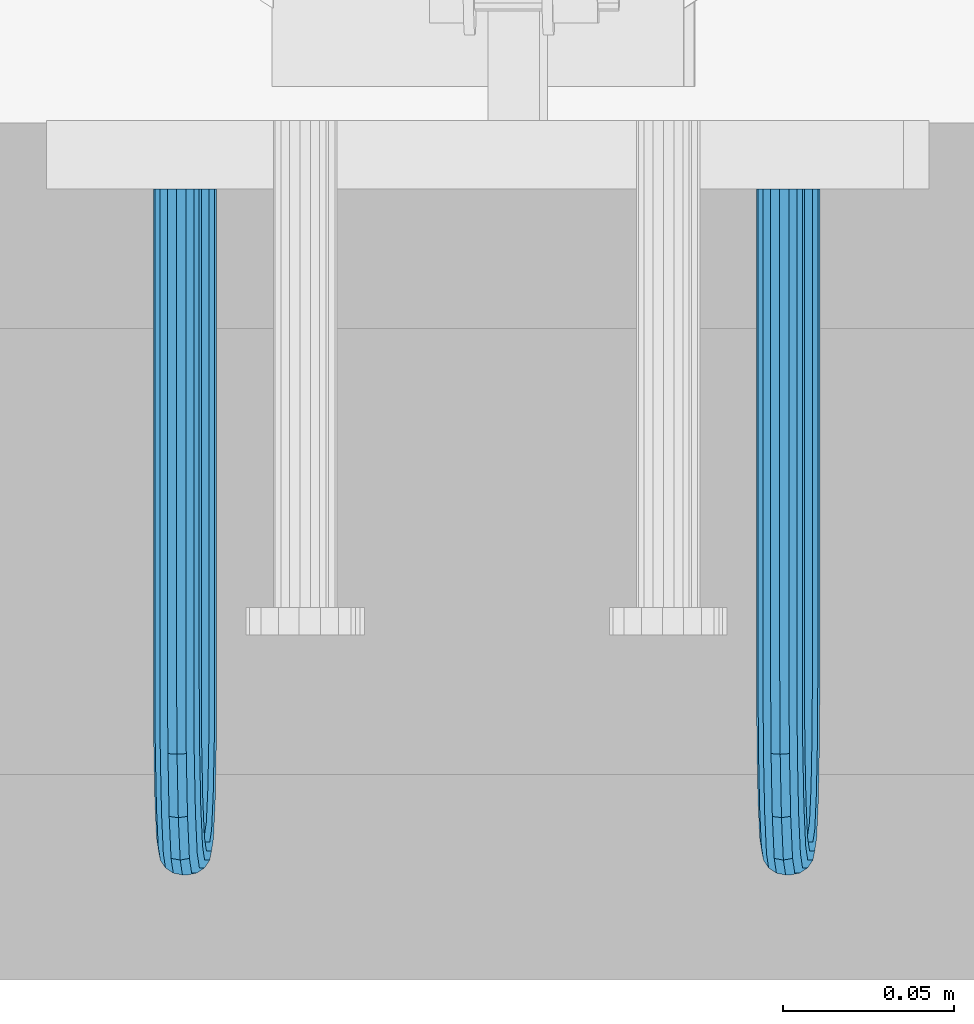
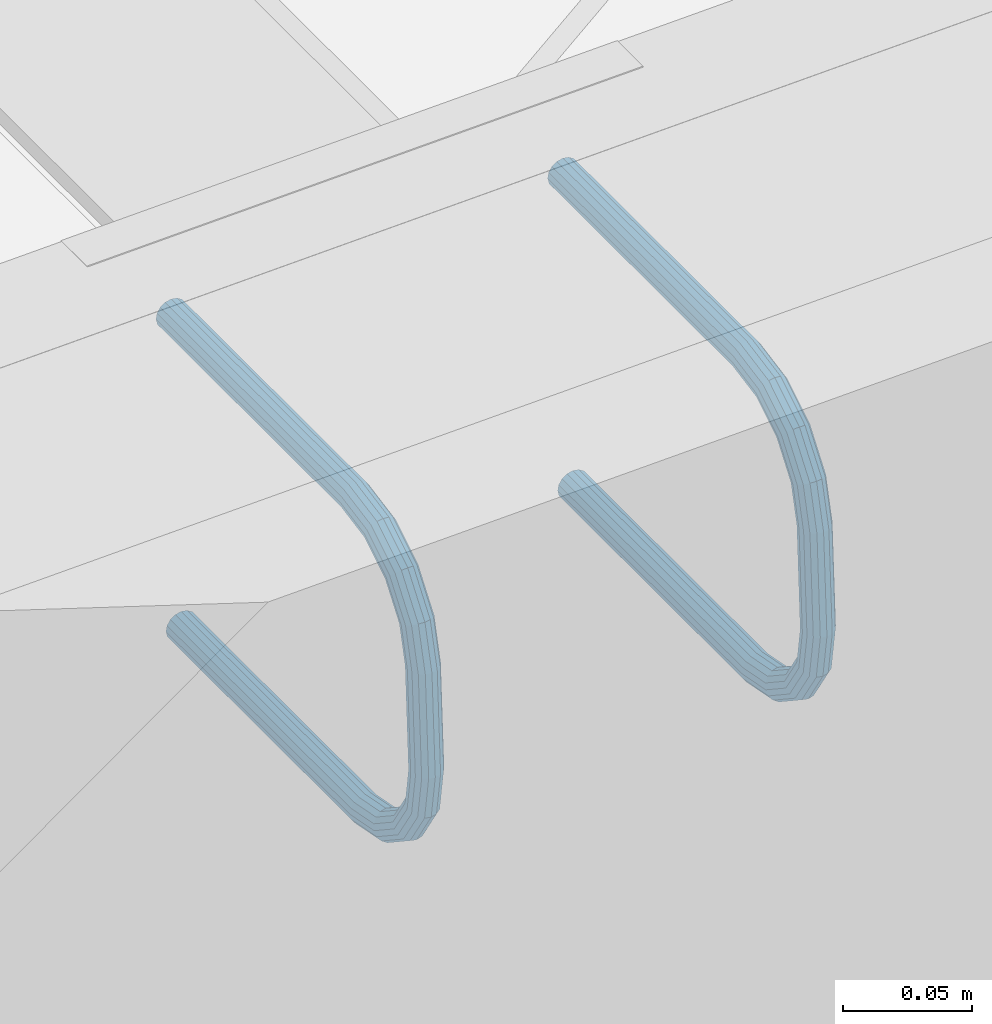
# One storey, part 79 of 476: 2 beams.
"""IFC2X3 building model written with IfcOpenShell, lengths in millimetres."""

from ifc_helpers import new_model, entity, si_unit, converted_unit, origin_with_axes, place, context, project, spatial, faceted_brep, material, element, save


model = new_model("IFC2X3")

# Units and contexts
model_context = context("Model", 3, precision=1e-09, world=origin_with_axes())
ifc_project = project(units=[si_unit("LENGTHUNIT", "METRE", prefix="MILLI"), si_unit("AREAUNIT", "SQUARE_METRE"), si_unit("VOLUMEUNIT", "CUBIC_METRE"), converted_unit("PLANEANGLEUNIT", "DEGREE", entity("IfcPlaneAngleMeasure", 0.01745329), si_unit("PLANEANGLEUNIT", "RADIAN"), dimensions=[0, 0, 0, 0, 0, 0, 0])], contexts=[model_context])

# Site, building, storey
site_placement = place(None, origin_with_axes())
site = spatial("IfcSite", under=ifc_project, at=site_placement, Name="mKR Teilneubau & Sanierung BA1 - Ostfildern", CompositionType="ELEMENT")
building_placement = place(site_placement, origin_with_axes())
building = spatial("IfcBuilding", under=site, at=building_placement, Name="Struktur 1", CompositionType="ELEMENT")
storey_placement = place(building_placement, origin_with_axes())
storey = spatial("IfcBuildingStorey", under=building, at=storey_placement, Name="Default Storey", CompositionType="ELEMENT", Elevation=0.0)

# Beams
ifc_material = material(Name="S235JR")
beam_1_placement = place(None, origin_with_axes())
element("IfcBeam", 1, at=beam_1_placement, inside=storey, material=ifc_material, Name="-", ObjectType="-", context=model_context, shape_type="Brep", body=[
    faceted_brep([(11701.629434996, -23549.67387897, 5198.397445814), (11703.853787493, -23549.67387897, 5199.982394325), (11706.515354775, -23549.67387897, 5200.595472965), (11709.208937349, -23549.67387897, 5200.14334607), (11711.524461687, -23549.67387897, 5198.694845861), (11713.109410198, -23549.67387897, 5196.470493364), (11713.722488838, -23549.67387897, 5193.808926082), (11713.270361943, -23549.67387897, 5191.115343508), (11711.821861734, -23549.67387897, 5188.799819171), (11709.597509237, -23549.67387897, 5187.21487066), (11706.935941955, -23549.67387897, 5186.601792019), (11704.242359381, -23549.67387897, 5187.053918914), (11701.926835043, -23549.67387897, 5188.502419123), (11700.341886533, -23549.67387897, 5190.72677162), (11699.728807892, -23549.67387897, 5193.388338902), (11700.180934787, -23549.67387897, 5196.081921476), (11699.736068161, -23549.67387897, 5336.986214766), (11697.420543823, -23549.67387897, 5338.434714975), (11695.835595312, -23549.67387897, 5340.659067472), (11695.222516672, -23549.67387897, 5343.320634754), (11695.674643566, -23549.67387897, 5346.014217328), (11697.123143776, -23549.67387897, 5348.329741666), (11699.347496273, -23549.67387897, 5349.914690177), (11702.009063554, -23549.67387897, 5350.527768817), (11704.702646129, -23549.67387897, 5350.075641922), (11707.018170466, -23549.67387897, 5348.627141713), (11708.603118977, -23549.67387897, 5346.402789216), (11709.216197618, -23549.67387897, 5343.741221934), (11708.764070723, -23549.67387897, 5341.04763936), (11707.315570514, -23549.67387897, 5338.732115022), (11705.091218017, -23549.67387897, 5337.147166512), (11702.429650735, -23549.67387897, 5336.534087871), (11701.629434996, -23692.67387897, 5198.397445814), (11703.853787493, -23692.67387897, 5199.982394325), (11700.180934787, -23692.67387897, 5196.081921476), (11699.728807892, -23692.67387897, 5193.388338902), (11700.341886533, -23692.67387897, 5190.72677162), (11701.926835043, -23692.67387897, 5188.502419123), (11704.242359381, -23692.67387897, 5187.053918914), (11706.935941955, -23692.67387897, 5186.601792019), (11709.597509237, -23692.67387897, 5187.21487066), (11711.821861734, -23692.67387897, 5188.799819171), (11713.270361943, -23692.67387897, 5191.115343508), (11713.722488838, -23692.67387897, 5193.808926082), (11713.109410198, -23692.67387897, 5196.470493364), (11711.524461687, -23692.67387897, 5198.694845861), (11709.208937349, -23692.67387897, 5200.14334607), (11706.515354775, -23692.67387897, 5200.595472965), (11701.52641378, -23709.913864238, 5201.825144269), (11703.754236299, -23709.333176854, 5203.294639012), (11700.072720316, -23710.782924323, 5199.682408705), (11699.614467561, -23711.808050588, 5197.192644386), (11700.22142034, -23712.833176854, 5194.73489536), (11701.801175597, -23713.702236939, 5192.683331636), (11704.113229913, -23714.282924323, 5191.350285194), (11706.805593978, -23714.486834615, 5190.938700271), (11709.468379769, -23714.282924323, 5191.51123694), (11711.696202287, -23713.702236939, 5192.980731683), (11713.149895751, -23712.833176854, 5195.123467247), (11713.608148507, -23711.808050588, 5197.613231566), (11713.001195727, -23710.782924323, 5200.070980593), (11711.421440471, -23709.913864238, 5202.122544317), (11709.109386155, -23709.333176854, 5203.455590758), (11706.41702209, -23709.129266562, 5203.867175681), (11701.233034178, -23724.52921803, 5211.586403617), (11703.470738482, -23723.456247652, 5212.727113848), (11699.764551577, -23726.135031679, 5209.935728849), (11699.288853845, -23728.02921803, 5208.026389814), (11699.878361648, -23729.92340438, 5206.149066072), (11701.443327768, -23731.52921803, 5204.589563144), (11703.745500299, -23732.602188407, 5203.585301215), (11706.434394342, -23732.978965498, 5203.289170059), (11709.100650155, -23732.602188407, 5203.746252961), (11711.338354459, -23731.52921803, 5204.886963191), (11712.806837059, -23729.92340438, 5206.537637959), (11713.282534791, -23728.02921803, 5208.446976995), (11712.693026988, -23726.135031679, 5210.324300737), (11711.128060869, -23724.52921803, 5211.883803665), (11708.825888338, -23723.456247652, 5212.888065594), (11706.136994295, -23723.079470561, 5213.18419675), (11700.793960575, -23734.294885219, 5226.195160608), (11703.046454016, -23732.892981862, 5226.843810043), (11699.303344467, -23736.392981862, 5225.280906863), (11698.801538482, -23738.867855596, 5224.240235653), (11699.364938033, -23741.34272933, 5223.231579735), (11700.907770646, -23743.440825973, 5222.408497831), (11703.195154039, -23744.84272933, 5221.896296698), (11705.878854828, -23745.335012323, 5221.772954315), (11708.550303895, -23744.84272933, 5222.057248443), (11710.802797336, -23743.440825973, 5222.705897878), (11712.293413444, -23741.34272933, 5223.620151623), (11712.795219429, -23738.867855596, 5224.660822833), (11712.231819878, -23736.392981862, 5225.669478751), (11710.688987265, -23734.294885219, 5226.492560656), (11708.401603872, -23732.892981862, 5227.004761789), (11705.717903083, -23732.400698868, 5227.128104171), (11700.276037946, -23737.724131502, 5243.427364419), (11702.545976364, -23736.206722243, 5243.49558857), (11698.759313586, -23739.995094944, 5243.381778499), (11698.226710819, -23742.67387897, 5243.365770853), (11698.759313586, -23745.352662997, 5243.381778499), (11700.276037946, -23747.623626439, 5243.427364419), (11702.545976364, -23749.141035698, 5243.49558857), (11705.223551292, -23749.67387897, 5243.576064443), (11707.90112622, -23749.141035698, 5243.656540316), (11710.171064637, -23747.623626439, 5243.724764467), (11711.687788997, -23745.352662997, 5243.770350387), (11712.220391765, -23742.67387897, 5243.786358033), (11711.687788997, -23739.995094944, 5243.770350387), (11710.171064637, -23737.724131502, 5243.724764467), (11707.90112622, -23736.206722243, 5243.656540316), (11705.223551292, -23735.67387897, 5243.576064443), (11698.773940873, -23737.724131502, 5293.40479637), (11701.04387929, -23736.206722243, 5293.473020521), (11697.257216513, -23739.995094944, 5293.35921045), (11696.724613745, -23742.67387897, 5293.343202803), (11697.257216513, -23745.352662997, 5293.35921045), (11698.773940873, -23747.623626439, 5293.40479637), (11701.04387929, -23749.141035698, 5293.473020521), (11703.721454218, -23749.67387897, 5293.553496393), (11706.399029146, -23749.141035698, 5293.633972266), (11708.668967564, -23747.623626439, 5293.702196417), (11710.185691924, -23745.352662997, 5293.747782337), (11710.718294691, -23742.67387897, 5293.763789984), (11710.185691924, -23739.995094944, 5293.747782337), (11708.668967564, -23737.724131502, 5293.702196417), (11706.399029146, -23736.206722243, 5293.633972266), (11703.721454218, -23735.67387897, 5293.553496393), (11698.256018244, -23734.294885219, 5310.637000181), (11700.543401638, -23732.892981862, 5310.124799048), (11696.713185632, -23736.392981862, 5311.460082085), (11696.149786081, -23738.867855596, 5312.468738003), (11696.651592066, -23741.34272933, 5313.509409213), (11698.142208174, -23743.440825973, 5314.423662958), (11700.394701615, -23744.84272933, 5315.072312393), (11703.066150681, -23745.335012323, 5315.356606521), (11705.74985147, -23744.84272933, 5315.233264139), (11708.037234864, -23743.440825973, 5314.721063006), (11709.580067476, -23741.34272933, 5313.897981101), (11710.143467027, -23738.867855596, 5312.889325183), (11709.641661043, -23736.392981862, 5311.848653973), (11708.151044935, -23734.294885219, 5310.934400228), (11705.898551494, -23732.892981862, 5310.285750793), (11703.227102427, -23732.400698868, 5310.001456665), (11697.816944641, -23724.52921803, 5325.245757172), (11700.119117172, -23723.456247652, 5324.241495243), (11696.251978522, -23726.135031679, 5326.8052601), (11695.662470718, -23728.02921803, 5328.682583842), (11696.138168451, -23729.92340438, 5330.591922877), (11697.606651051, -23731.52921803, 5332.242597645), (11699.844355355, -23732.602188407, 5333.383307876), (11702.510611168, -23732.978965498, 5333.840390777), (11705.199505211, -23732.602188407, 5333.544259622), (11707.501677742, -23731.52921803, 5332.539997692), (11709.066643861, -23729.92340438, 5330.980494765), (11709.656151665, -23728.02921803, 5329.103171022), (11709.180453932, -23726.135031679, 5327.193831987), (11707.711971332, -23724.52921803, 5325.543157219), (11705.474267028, -23723.456247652, 5324.402446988), (11702.808011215, -23723.079470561, 5323.945364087), (11697.523565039, -23709.913864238, 5335.00701652), (11699.835619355, -23709.333176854, 5333.673970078), (11695.943809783, -23710.782924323, 5337.058580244), (11695.336857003, -23711.808050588, 5339.51632927), (11695.795109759, -23712.833176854, 5342.006093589), (11697.248803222, -23713.702236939, 5344.148829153), (11699.476625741, -23714.282924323, 5345.618323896), (11702.139411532, -23714.486834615, 5346.190860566), (11704.831775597, -23714.282924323, 5345.779275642), (11707.143829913, -23713.702236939, 5344.446229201), (11708.72358517, -23712.833176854, 5342.394665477), (11709.330537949, -23711.808050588, 5339.93691645), (11708.872285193, -23710.782924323, 5337.447152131), (11707.41859173, -23709.913864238, 5335.304416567), (11705.190769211, -23709.333176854, 5333.834921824), (11702.52798342, -23709.129266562, 5333.262385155), (11697.420543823, -23692.67387897, 5338.434714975), (11699.736068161, -23692.67387897, 5336.986214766), (11695.835595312, -23692.67387897, 5340.659067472), (11695.222516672, -23692.67387897, 5343.320634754), (11695.674643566, -23692.67387897, 5346.014217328), (11697.123143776, -23692.67387897, 5348.329741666), (11699.347496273, -23692.67387897, 5349.914690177), (11702.009063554, -23692.67387897, 5350.527768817), (11704.702646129, -23692.67387897, 5350.075641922), (11707.018170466, -23692.67387897, 5348.627141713), (11708.603118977, -23692.67387897, 5346.402789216), (11709.216197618, -23692.67387897, 5343.741221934), (11708.764070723, -23692.67387897, 5341.04763936), (11707.315570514, -23692.67387897, 5338.732115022), (11705.091218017, -23692.67387897, 5337.147166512), (11702.429650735, -23692.67387897, 5336.534087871)], [[[0, 1, 2, 3, 4, 5, 6, 7, 8, 9, 10, 11, 12, 13, 14, 15]], [[16, 17, 18, 19, 20, 21, 22, 23, 24, 25, 26, 27, 28, 29, 30, 31]], [[1, 0, 32, 33]], [[0, 15, 34, 32]], [[15, 14, 35, 34]], [[14, 13, 36, 35]], [[13, 12, 37, 36]], [[12, 11, 38, 37]], [[11, 10, 39, 38]], [[10, 9, 40, 39]], [[9, 8, 41, 40]], [[8, 7, 42, 41]], [[7, 6, 43, 42]], [[6, 5, 44, 43]], [[5, 4, 45, 44]], [[4, 3, 46, 45]], [[3, 2, 47, 46]], [[2, 1, 33, 47]], [[33, 32, 48, 49]], [[32, 34, 50, 48]], [[34, 35, 51, 50]], [[35, 36, 52, 51]], [[36, 37, 53, 52]], [[37, 38, 54, 53]], [[38, 39, 55, 54]], [[39, 40, 56, 55]], [[40, 41, 57, 56]], [[41, 42, 58, 57]], [[42, 43, 59, 58]], [[43, 44, 60, 59]], [[44, 45, 61, 60]], [[45, 46, 62, 61]], [[46, 47, 63, 62]], [[47, 33, 49, 63]], [[49, 48, 64, 65]], [[48, 50, 66, 64]], [[50, 51, 67, 66]], [[51, 52, 68, 67]], [[52, 53, 69, 68]], [[53, 54, 70, 69]], [[54, 55, 71, 70]], [[55, 56, 72, 71]], [[56, 57, 73, 72]], [[57, 58, 74, 73]], [[58, 59, 75, 74]], [[59, 60, 76, 75]], [[60, 61, 77, 76]], [[61, 62, 78, 77]], [[62, 63, 79, 78]], [[63, 49, 65, 79]], [[65, 64, 80, 81]], [[64, 66, 82, 80]], [[66, 67, 83, 82]], [[67, 68, 84, 83]], [[68, 69, 85, 84]], [[69, 70, 86, 85]], [[70, 71, 87, 86]], [[71, 72, 88, 87]], [[72, 73, 89, 88]], [[73, 74, 90, 89]], [[74, 75, 91, 90]], [[75, 76, 92, 91]], [[76, 77, 93, 92]], [[77, 78, 94, 93]], [[78, 79, 95, 94]], [[79, 65, 81, 95]], [[81, 80, 96, 97]], [[80, 82, 98, 96]], [[82, 83, 99, 98]], [[83, 84, 100, 99]], [[84, 85, 101, 100]], [[85, 86, 102, 101]], [[86, 87, 103, 102]], [[87, 88, 104, 103]], [[88, 89, 105, 104]], [[89, 90, 106, 105]], [[90, 91, 107, 106]], [[91, 92, 108, 107]], [[92, 93, 109, 108]], [[93, 94, 110, 109]], [[94, 95, 111, 110]], [[95, 81, 97, 111]], [[97, 96, 112, 113]], [[96, 98, 114, 112]], [[98, 99, 115, 114]], [[99, 100, 116, 115]], [[100, 101, 117, 116]], [[101, 102, 118, 117]], [[102, 103, 119, 118]], [[103, 104, 120, 119]], [[104, 105, 121, 120]], [[105, 106, 122, 121]], [[106, 107, 123, 122]], [[107, 108, 124, 123]], [[108, 109, 125, 124]], [[109, 110, 126, 125]], [[110, 111, 127, 126]], [[111, 97, 113, 127]], [[113, 112, 128, 129]], [[112, 114, 130, 128]], [[114, 115, 131, 130]], [[115, 116, 132, 131]], [[116, 117, 133, 132]], [[117, 118, 134, 133]], [[118, 119, 135, 134]], [[119, 120, 136, 135]], [[120, 121, 137, 136]], [[121, 122, 138, 137]], [[122, 123, 139, 138]], [[123, 124, 140, 139]], [[124, 125, 141, 140]], [[125, 126, 142, 141]], [[126, 127, 143, 142]], [[127, 113, 129, 143]], [[129, 128, 144, 145]], [[128, 130, 146, 144]], [[130, 131, 147, 146]], [[131, 132, 148, 147]], [[132, 133, 149, 148]], [[133, 134, 150, 149]], [[134, 135, 151, 150]], [[135, 136, 152, 151]], [[136, 137, 153, 152]], [[137, 138, 154, 153]], [[138, 139, 155, 154]], [[139, 140, 156, 155]], [[140, 141, 157, 156]], [[141, 142, 158, 157]], [[142, 143, 159, 158]], [[143, 129, 145, 159]], [[145, 144, 160, 161]], [[144, 146, 162, 160]], [[146, 147, 163, 162]], [[147, 148, 164, 163]], [[148, 149, 165, 164]], [[149, 150, 166, 165]], [[150, 151, 167, 166]], [[151, 152, 168, 167]], [[152, 153, 169, 168]], [[153, 154, 170, 169]], [[154, 155, 171, 170]], [[155, 156, 172, 171]], [[156, 157, 173, 172]], [[157, 158, 174, 173]], [[158, 159, 175, 174]], [[159, 145, 161, 175]], [[161, 160, 176, 177]], [[160, 162, 178, 176]], [[162, 163, 179, 178]], [[163, 164, 180, 179]], [[164, 165, 181, 180]], [[165, 166, 182, 181]], [[166, 167, 183, 182]], [[167, 168, 184, 183]], [[168, 169, 185, 184]], [[169, 170, 186, 185]], [[170, 171, 187, 186]], [[171, 172, 188, 187]], [[172, 173, 189, 188]], [[173, 174, 190, 189]], [[174, 175, 191, 190]], [[175, 161, 177, 191]], [[177, 176, 17, 16]], [[176, 178, 18, 17]], [[178, 179, 19, 18]], [[179, 180, 20, 19]], [[180, 181, 21, 20]], [[181, 182, 22, 21]], [[182, 183, 23, 22]], [[183, 184, 24, 23]], [[184, 185, 25, 24]], [[185, 186, 26, 25]], [[186, 187, 27, 26]], [[187, 188, 28, 27]], [[188, 189, 29, 28]], [[189, 190, 30, 29]], [[190, 191, 31, 30]], [[191, 177, 16, 31]]]),
])
beam_2_placement = place(None, origin_with_axes())
element("IfcBeam", 2, at=beam_2_placement, inside=storey, material=ifc_material, Name="-", ObjectType="-", context=model_context, shape_type="Brep", body=[
    faceted_brep([(11525.70887453, -23549.67387897, 5193.110064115), (11527.933227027, -23549.67387897, 5194.695012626), (11530.594794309, -23549.67387897, 5195.308091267), (11533.288376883, -23549.67387897, 5194.855964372), (11535.60390122, -23549.67387897, 5193.407464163), (11537.188849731, -23549.67387897, 5191.183111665), (11537.801928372, -23549.67387897, 5188.521544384), (11537.349801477, -23549.67387897, 5185.82796181), (11535.901301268, -23549.67387897, 5183.512437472), (11533.676948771, -23549.67387897, 5181.927488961), (11531.015381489, -23549.67387897, 5181.314410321), (11528.321798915, -23549.67387897, 5181.766537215), (11526.006274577, -23549.67387897, 5183.215037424), (11524.421326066, -23549.67387897, 5185.439389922), (11523.808247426, -23549.67387897, 5188.100957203), (11524.260374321, -23549.67387897, 5190.794539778), (11523.815507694, -23549.67387897, 5331.698833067), (11521.499983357, -23549.67387897, 5333.147333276), (11519.915034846, -23549.67387897, 5335.371685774), (11519.301956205, -23549.67387897, 5338.033253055), (11519.7540831, -23549.67387897, 5340.72683563), (11521.202583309, -23549.67387897, 5343.042359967), (11523.426935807, -23549.67387897, 5344.627308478), (11526.088503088, -23549.67387897, 5345.240387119), (11528.782085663, -23549.67387897, 5344.788260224), (11531.09761, -23549.67387897, 5343.339760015), (11532.682558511, -23549.67387897, 5341.115407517), (11533.295637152, -23549.67387897, 5338.453840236), (11532.843510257, -23549.67387897, 5335.760257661), (11531.395010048, -23549.67387897, 5333.444733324), (11529.17065755, -23549.67387897, 5331.859784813), (11526.509090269, -23549.67387897, 5331.246706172), (11525.70887453, -23692.67387897, 5193.110064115), (11527.933227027, -23692.67387897, 5194.695012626), (11524.260374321, -23692.67387897, 5190.794539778), (11523.808247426, -23692.67387897, 5188.100957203), (11524.421326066, -23692.67387897, 5185.439389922), (11526.006274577, -23692.67387897, 5183.215037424), (11528.321798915, -23692.67387897, 5181.766537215), (11531.015381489, -23692.67387897, 5181.314410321), (11533.676948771, -23692.67387897, 5181.927488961), (11535.901301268, -23692.67387897, 5183.512437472), (11537.349801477, -23692.67387897, 5185.82796181), (11537.801928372, -23692.67387897, 5188.521544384), (11537.188849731, -23692.67387897, 5191.183111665), (11535.603901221, -23692.67387897, 5193.407464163), (11533.288376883, -23692.67387897, 5194.855964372), (11530.594794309, -23692.67387897, 5195.308091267), (11525.605853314, -23709.913864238, 5196.53776257), (11527.833675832, -23709.333176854, 5198.007257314), (11524.15215985, -23710.782924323, 5194.395027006), (11523.693907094, -23711.808050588, 5191.905262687), (11524.300859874, -23712.833176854, 5189.447513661), (11525.88061513, -23713.702236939, 5187.395949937), (11528.192669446, -23714.282924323, 5186.062903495), (11530.885033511, -23714.486834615, 5185.651318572), (11533.547819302, -23714.282924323, 5186.223855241), (11535.775641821, -23713.702236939, 5187.693349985), (11537.229335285, -23712.833176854, 5189.836085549), (11537.68758804, -23711.808050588, 5192.325849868), (11537.080635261, -23710.782924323, 5194.783598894), (11535.500880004, -23709.913864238, 5196.835162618), (11533.188825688, -23709.333176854, 5198.16820906), (11530.496461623, -23709.129266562, 5198.579793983), (11525.312473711, -23724.52921803, 5206.299021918), (11527.550178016, -23723.456247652, 5207.439732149), (11523.843991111, -23726.135031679, 5204.64834715), (11523.368293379, -23728.02921803, 5202.739008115), (11523.957801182, -23729.92340438, 5200.861684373), (11525.522767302, -23731.52921803, 5199.302181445), (11527.824939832, -23732.602188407, 5198.297919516), (11530.513833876, -23732.978965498, 5198.00178836), (11533.180089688, -23732.602188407, 5198.458871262), (11535.417793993, -23731.52921803, 5199.599581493), (11536.886276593, -23729.92340438, 5201.250256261), (11537.361974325, -23728.02921803, 5203.159595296), (11536.772466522, -23726.135031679, 5205.036919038), (11535.207500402, -23724.52921803, 5206.596421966), (11532.905327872, -23723.456247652, 5207.600683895), (11530.216433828, -23723.079470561, 5207.896815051), (11524.873400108, -23734.294885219, 5220.90777891), (11527.125893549, -23732.892981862, 5221.556428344), (11523.382784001, -23736.392981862, 5219.993525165), (11522.880978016, -23738.867855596, 5218.952853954), (11523.444377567, -23741.34272933, 5217.944198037), (11524.987210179, -23743.440825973, 5217.121116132), (11527.274593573, -23744.84272933, 5216.608914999), (11529.958294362, -23745.335012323, 5216.485572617), (11532.629743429, -23744.84272933, 5216.769866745), (11534.88223687, -23743.440825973, 5217.41851618), (11536.372852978, -23741.34272933, 5218.332769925), (11536.874658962, -23738.867855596, 5219.373441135), (11536.311259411, -23736.392981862, 5220.382097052), (11534.768426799, -23734.294885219, 5221.205178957), (11532.481043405, -23732.892981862, 5221.71738009), (11529.797342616, -23732.400698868, 5221.840722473), (11524.35547748, -23737.724131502, 5238.139982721), (11526.625415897, -23736.206722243, 5238.208206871), (11522.83875312, -23739.995094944, 5238.0943968), (11522.306150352, -23742.67387897, 5238.078389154), (11522.83875312, -23745.352662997, 5238.0943968), (11524.35547748, -23747.623626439, 5238.139982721), (11526.625415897, -23749.141035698, 5238.208206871), (11529.302990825, -23749.67387897, 5238.288682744), (11531.980565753, -23749.141035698, 5238.369158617), (11534.250504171, -23747.623626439, 5238.437382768), (11535.767228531, -23745.352662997, 5238.482968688), (11536.299831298, -23742.67387897, 5238.498976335), (11535.767228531, -23739.995094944, 5238.482968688), (11534.250504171, -23737.724131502, 5238.437382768), (11531.980565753, -23736.206722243, 5238.369158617), (11529.302990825, -23735.67387897, 5238.288682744), (11522.853380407, -23737.724131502, 5288.117414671), (11525.123318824, -23736.206722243, 5288.185638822), (11521.336656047, -23739.995094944, 5288.071828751), (11520.804053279, -23742.67387897, 5288.055821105), (11521.336656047, -23745.352662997, 5288.071828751), (11522.853380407, -23747.623626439, 5288.117414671), (11525.123318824, -23749.141035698, 5288.185638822), (11527.800893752, -23749.67387897, 5288.266114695), (11530.47846868, -23749.141035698, 5288.346590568), (11532.748407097, -23747.623626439, 5288.414814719), (11534.265131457, -23745.352662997, 5288.460400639), (11534.797734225, -23742.67387897, 5288.476408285), (11534.265131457, -23739.995094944, 5288.460400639), (11532.748407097, -23737.724131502, 5288.414814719), (11530.47846868, -23736.206722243, 5288.346590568), (11527.800893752, -23735.67387897, 5288.266114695), (11522.335457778, -23734.294885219, 5305.349618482), (11524.622841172, -23732.892981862, 5304.837417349), (11520.792625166, -23736.392981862, 5306.172700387), (11520.229225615, -23738.867855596, 5307.181356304), (11520.731031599, -23741.34272933, 5308.222027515), (11522.221647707, -23743.440825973, 5309.13628126), (11524.474141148, -23744.84272933, 5309.784930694), (11527.145590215, -23745.335012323, 5310.069224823), (11529.829291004, -23744.84272933, 5309.94588244), (11532.116674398, -23743.440825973, 5309.433681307), (11533.65950701, -23741.34272933, 5308.610599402), (11534.222906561, -23738.867855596, 5307.601943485), (11533.721100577, -23736.392981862, 5306.561272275), (11532.230484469, -23734.294885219, 5305.64701853), (11529.977991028, -23732.892981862, 5304.998369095), (11527.306541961, -23732.400698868, 5304.714074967), (11521.896384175, -23724.52921803, 5319.958375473), (11524.198556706, -23723.456247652, 5318.954113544), (11520.331418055, -23726.135031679, 5321.517878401), (11519.741910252, -23728.02921803, 5323.395202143), (11520.217607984, -23729.92340438, 5325.304541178), (11521.686090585, -23731.52921803, 5326.955215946), (11523.923794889, -23732.602188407, 5328.095926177), (11526.590050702, -23732.978965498, 5328.553009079), (11529.278944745, -23732.602188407, 5328.256877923), (11531.581117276, -23731.52921803, 5327.252615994), (11533.146083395, -23729.92340438, 5325.693113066), (11533.735591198, -23728.02921803, 5323.815789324), (11533.259893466, -23726.135031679, 5321.906450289), (11531.791410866, -23724.52921803, 5320.255775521), (11529.553706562, -23723.456247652, 5319.11506529), (11526.887450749, -23723.079470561, 5318.657982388), (11521.603004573, -23709.913864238, 5329.719634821), (11523.915058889, -23709.333176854, 5328.386588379), (11520.023249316, -23710.782924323, 5331.771198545), (11519.416296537, -23711.808050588, 5334.228947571), (11519.874549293, -23712.833176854, 5336.71871189), (11521.328242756, -23713.702236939, 5338.861447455), (11523.556065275, -23714.282924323, 5340.330942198), (11526.218851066, -23714.486834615, 5340.903478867), (11528.911215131, -23714.282924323, 5340.491893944), (11531.223269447, -23713.702236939, 5339.158847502), (11532.803024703, -23712.833176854, 5337.107283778), (11533.409977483, -23711.808050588, 5334.649534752), (11532.951724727, -23710.782924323, 5332.159770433), (11531.498031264, -23709.913864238, 5330.017034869), (11529.270208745, -23709.333176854, 5328.547540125), (11526.607422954, -23709.129266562, 5327.975003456), (11521.499983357, -23692.67387897, 5333.147333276), (11523.815507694, -23692.67387897, 5331.698833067), (11519.915034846, -23692.67387897, 5335.371685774), (11519.301956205, -23692.67387897, 5338.033253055), (11519.7540831, -23692.67387897, 5340.72683563), (11521.202583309, -23692.67387897, 5343.042359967), (11523.426935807, -23692.67387897, 5344.627308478), (11526.088503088, -23692.67387897, 5345.240387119), (11528.782085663, -23692.67387897, 5344.788260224), (11531.09761, -23692.67387897, 5343.339760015), (11532.682558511, -23692.67387897, 5341.115407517), (11533.295637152, -23692.67387897, 5338.453840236), (11532.843510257, -23692.67387897, 5335.760257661), (11531.395010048, -23692.67387897, 5333.444733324), (11529.17065755, -23692.67387897, 5331.859784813), (11526.509090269, -23692.67387897, 5331.246706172)], [[[0, 1, 2, 3, 4, 5, 6, 7, 8, 9, 10, 11, 12, 13, 14, 15]], [[16, 17, 18, 19, 20, 21, 22, 23, 24, 25, 26, 27, 28, 29, 30, 31]], [[1, 0, 32, 33]], [[0, 15, 34, 32]], [[15, 14, 35, 34]], [[14, 13, 36, 35]], [[13, 12, 37, 36]], [[12, 11, 38, 37]], [[11, 10, 39, 38]], [[10, 9, 40, 39]], [[9, 8, 41, 40]], [[8, 7, 42, 41]], [[7, 6, 43, 42]], [[6, 5, 44, 43]], [[5, 4, 45, 44]], [[4, 3, 46, 45]], [[3, 2, 47, 46]], [[2, 1, 33, 47]], [[33, 32, 48, 49]], [[32, 34, 50, 48]], [[34, 35, 51, 50]], [[35, 36, 52, 51]], [[36, 37, 53, 52]], [[37, 38, 54, 53]], [[38, 39, 55, 54]], [[39, 40, 56, 55]], [[40, 41, 57, 56]], [[41, 42, 58, 57]], [[42, 43, 59, 58]], [[43, 44, 60, 59]], [[44, 45, 61, 60]], [[45, 46, 62, 61]], [[46, 47, 63, 62]], [[47, 33, 49, 63]], [[49, 48, 64, 65]], [[48, 50, 66, 64]], [[50, 51, 67, 66]], [[51, 52, 68, 67]], [[52, 53, 69, 68]], [[53, 54, 70, 69]], [[54, 55, 71, 70]], [[55, 56, 72, 71]], [[56, 57, 73, 72]], [[57, 58, 74, 73]], [[58, 59, 75, 74]], [[59, 60, 76, 75]], [[60, 61, 77, 76]], [[61, 62, 78, 77]], [[62, 63, 79, 78]], [[63, 49, 65, 79]], [[65, 64, 80, 81]], [[64, 66, 82, 80]], [[66, 67, 83, 82]], [[67, 68, 84, 83]], [[68, 69, 85, 84]], [[69, 70, 86, 85]], [[70, 71, 87, 86]], [[71, 72, 88, 87]], [[72, 73, 89, 88]], [[73, 74, 90, 89]], [[74, 75, 91, 90]], [[75, 76, 92, 91]], [[76, 77, 93, 92]], [[77, 78, 94, 93]], [[78, 79, 95, 94]], [[79, 65, 81, 95]], [[81, 80, 96, 97]], [[80, 82, 98, 96]], [[82, 83, 99, 98]], [[83, 84, 100, 99]], [[84, 85, 101, 100]], [[85, 86, 102, 101]], [[86, 87, 103, 102]], [[87, 88, 104, 103]], [[88, 89, 105, 104]], [[89, 90, 106, 105]], [[90, 91, 107, 106]], [[91, 92, 108, 107]], [[92, 93, 109, 108]], [[93, 94, 110, 109]], [[94, 95, 111, 110]], [[95, 81, 97, 111]], [[97, 96, 112, 113]], [[96, 98, 114, 112]], [[98, 99, 115, 114]], [[99, 100, 116, 115]], [[100, 101, 117, 116]], [[101, 102, 118, 117]], [[102, 103, 119, 118]], [[103, 104, 120, 119]], [[104, 105, 121, 120]], [[105, 106, 122, 121]], [[106, 107, 123, 122]], [[107, 108, 124, 123]], [[108, 109, 125, 124]], [[109, 110, 126, 125]], [[110, 111, 127, 126]], [[111, 97, 113, 127]], [[113, 112, 128, 129]], [[112, 114, 130, 128]], [[114, 115, 131, 130]], [[115, 116, 132, 131]], [[116, 117, 133, 132]], [[117, 118, 134, 133]], [[118, 119, 135, 134]], [[119, 120, 136, 135]], [[120, 121, 137, 136]], [[121, 122, 138, 137]], [[122, 123, 139, 138]], [[123, 124, 140, 139]], [[124, 125, 141, 140]], [[125, 126, 142, 141]], [[126, 127, 143, 142]], [[127, 113, 129, 143]], [[129, 128, 144, 145]], [[128, 130, 146, 144]], [[130, 131, 147, 146]], [[131, 132, 148, 147]], [[132, 133, 149, 148]], [[133, 134, 150, 149]], [[134, 135, 151, 150]], [[135, 136, 152, 151]], [[136, 137, 153, 152]], [[137, 138, 154, 153]], [[138, 139, 155, 154]], [[139, 140, 156, 155]], [[140, 141, 157, 156]], [[141, 142, 158, 157]], [[142, 143, 159, 158]], [[143, 129, 145, 159]], [[145, 144, 160, 161]], [[144, 146, 162, 160]], [[146, 147, 163, 162]], [[147, 148, 164, 163]], [[148, 149, 165, 164]], [[149, 150, 166, 165]], [[150, 151, 167, 166]], [[151, 152, 168, 167]], [[152, 153, 169, 168]], [[153, 154, 170, 169]], [[154, 155, 171, 170]], [[155, 156, 172, 171]], [[156, 157, 173, 172]], [[157, 158, 174, 173]], [[158, 159, 175, 174]], [[159, 145, 161, 175]], [[161, 160, 176, 177]], [[160, 162, 178, 176]], [[162, 163, 179, 178]], [[163, 164, 180, 179]], [[164, 165, 181, 180]], [[165, 166, 182, 181]], [[166, 167, 183, 182]], [[167, 168, 184, 183]], [[168, 169, 185, 184]], [[169, 170, 186, 185]], [[170, 171, 187, 186]], [[171, 172, 188, 187]], [[172, 173, 189, 188]], [[173, 174, 190, 189]], [[174, 175, 191, 190]], [[175, 161, 177, 191]], [[177, 176, 17, 16]], [[176, 178, 18, 17]], [[178, 179, 19, 18]], [[179, 180, 20, 19]], [[180, 181, 21, 20]], [[181, 182, 22, 21]], [[182, 183, 23, 22]], [[183, 184, 24, 23]], [[184, 185, 25, 24]], [[185, 186, 26, 25]], [[186, 187, 27, 26]], [[187, 188, 28, 27]], [[188, 189, 29, 28]], [[189, 190, 30, 29]], [[190, 191, 31, 30]], [[191, 177, 16, 31]]]),
])

save(model, "model.ifc")
